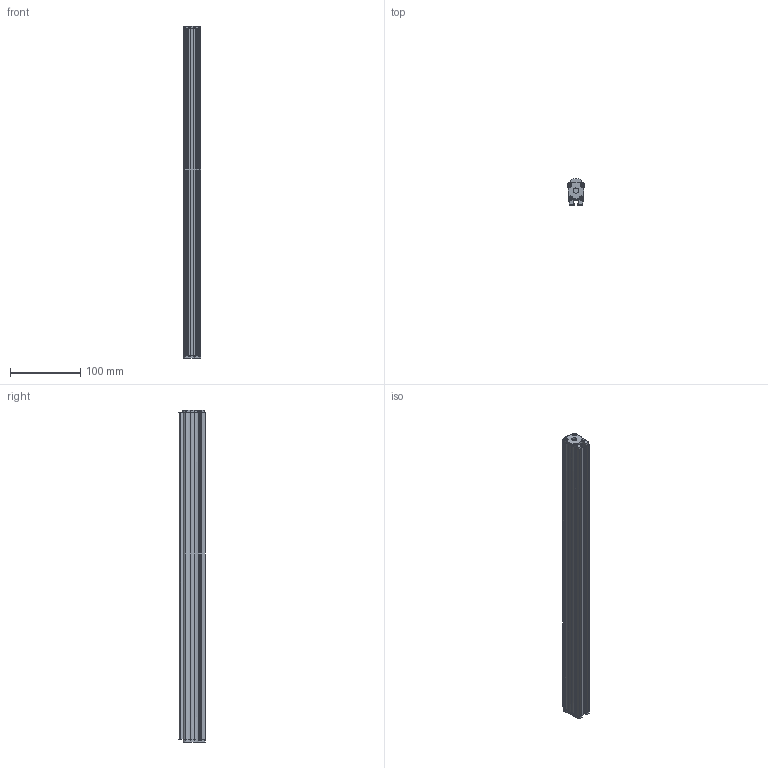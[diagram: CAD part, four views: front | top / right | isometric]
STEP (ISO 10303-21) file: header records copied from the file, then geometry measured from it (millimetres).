
FILE_DESCRIPTION(('STEP AP214'),'1');
FILE_NAME('optique lin prism+lent V7.stp','2021-02-15T14:44:58',('Blanc'),('Phlox'),'Spatial InterOp 3D',' ',' ');
FILE_SCHEMA(('AUTOMOTIVE_DESIGN { 1 0 10303 214 1 1 1 1 }'));
Length unit declared in the file: inch
Products named in the file (1): Pièce_83634808
Bounding box: 24.54 x 37.28 x 471.49 mm (x, y, z)
Volume: 172660.1 mm3; surface area: 142772.1 mm2
Topology: 6 solids, 6 shells, 380 faces, 1090 edges, 718 vertices
Faces by surface type: cylinder 211, plane 103, bspline 36, cone 16, extrusion 14
Entity records: 25879 total; most frequent: CARTESIAN_POINT 7893, ORIENTED_EDGE 2180, DIRECTION 2086, STYLED_ITEM 1345, PRESENTATION_STYLE_ASSIGNMENT 1345, COLOUR_RGB 1345, EDGE_CURVE 1090, CURVE_STYLE 959
